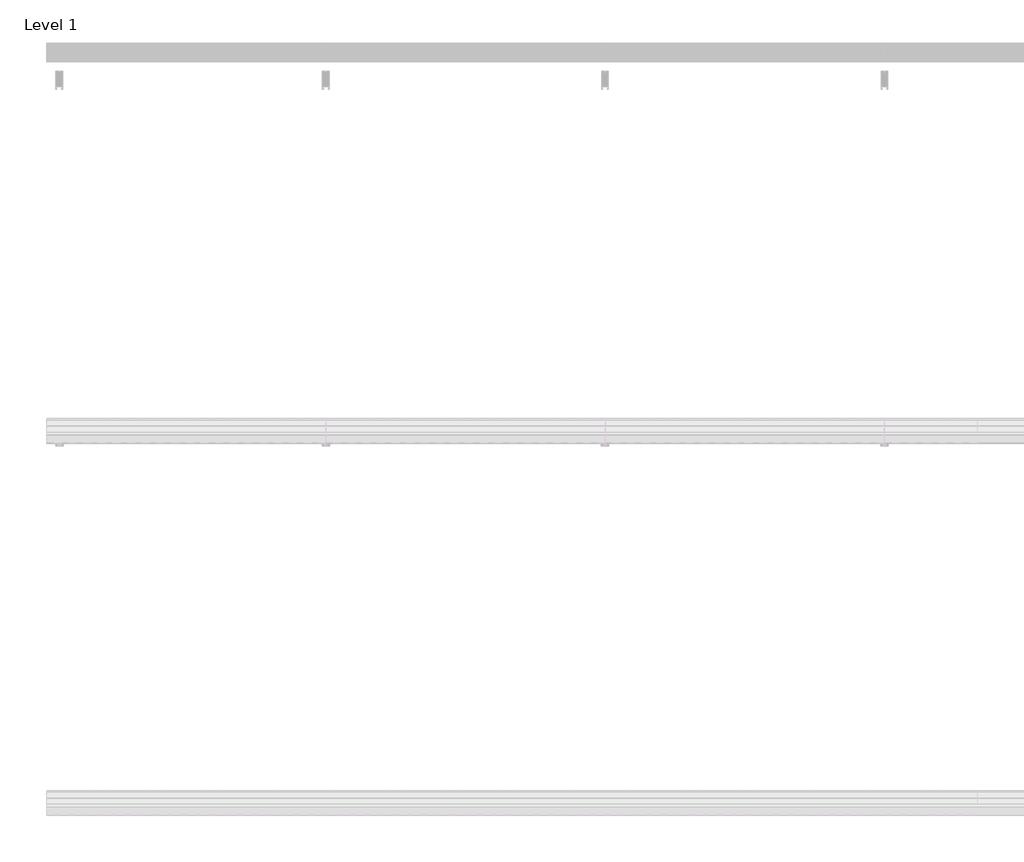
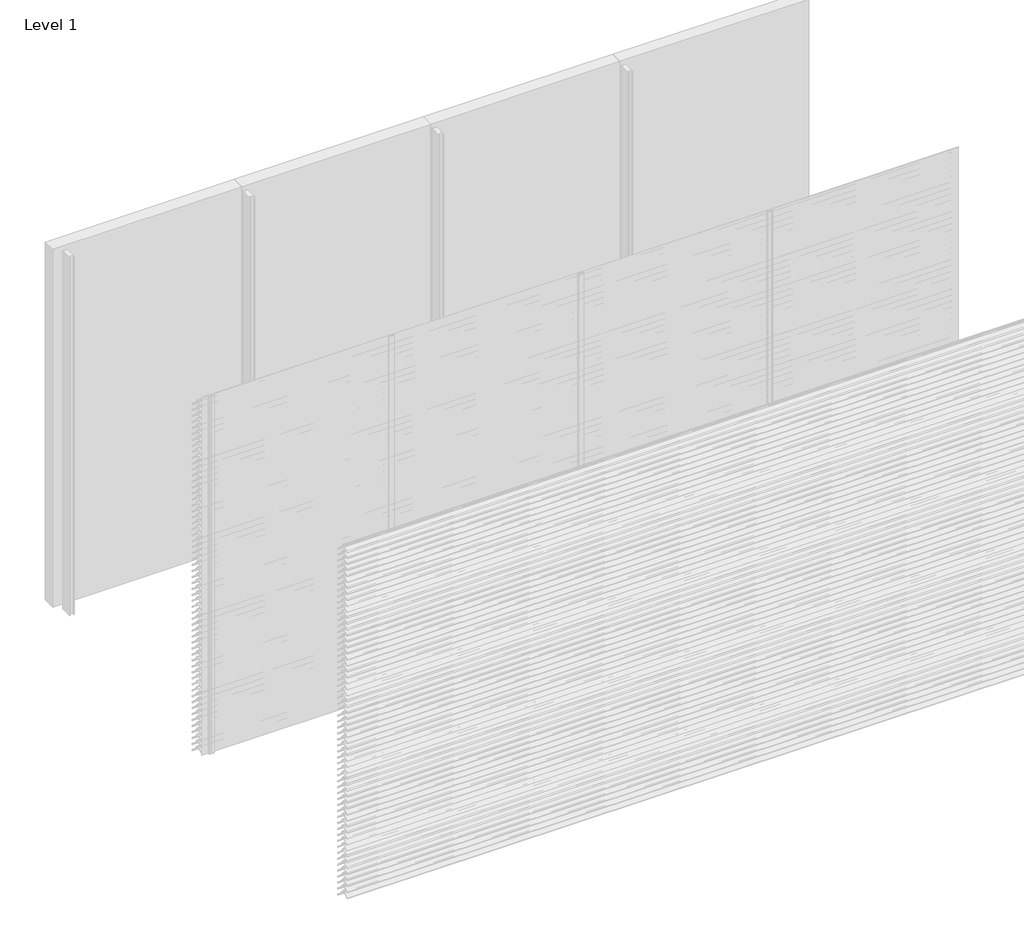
# One storey, part 98 of 173: 18 proxies.
"""IFC4 building model written with IfcOpenShell, lengths in millimetres."""

from ifc_helpers import new_model, si_unit, point, frame, frame_2d, origin, place, context, project, spatial, polyline, circle_curve, trimmed, segment, composite_curve, outline, extrude, element, save

model = new_model("IFC4")

# Units and contexts
model_context = context("Model", 3, world=origin())
ifc_project = project(units=[si_unit("LENGTHUNIT", "METRE", prefix="MILLI")], contexts=[model_context])

# Site, building, storey
site = spatial("IfcSite", under=ifc_project)
building = spatial("IfcBuilding", under=site)
storey = spatial("IfcBuildingStorey", under=building, Name="Level 1", Elevation=0.0)

# Proxies
placement = place(None, origin())
element("IfcBuildingElementProxy", 1, Name="Wall Sweeps", at=placement, inside=storey, context=model_context, shape_type="SweptSolid", body=[
    extrude(outline(composite_curve([segment(polyline([(-23998.0, 859.1474905), (-23998.0, 861.6227417)]), True, "CONTINUOUS"), segment(trimmed(circle_curve(frame_2d((-23951.2682172, 816.2200208)), 65.1557103), [point((-23998.0, 861.6227417))], [point((-23954.4014323, 881.3003524))], False, "CARTESIAN"), True, "CONTINUOUS"), segment(polyline([(-23954.4014323, 881.3003524), (-23934.8315836, 881.3003524)]), True, "CONTINUOUS"), segment(trimmed(circle_curve(frame_2d((-23732.7329489, 1028.5533172)), 250.0545817), [point((-23934.8315836, 881.3003524))], [point((-23941.4452143, 890.8344583))], False, "CARTESIAN"), True, "CONTINUOUS"), segment(trimmed(circle_curve(frame_2d((-23953.2981792, 885.1737835)), 13.1352966), [point((-23941.4452143, 890.8344583))], [point((-23953.8171475, 898.298824))], True, "CARTESIAN"), True, "CONTINUOUS"), segment(polyline([(-23953.8171475, 898.298824), (-23953.8171475, 900.0)]), True, "CONTINUOUS"), segment(trimmed(circle_curve(frame_2d((-23953.2981792, 885.1737835)), 14.8352966), [point((-23953.8171475, 900.0))], [point((-23939.9637661, 891.6760487))], False, "CARTESIAN"), True, "CONTINUOUS"), segment(trimmed(circle_curve(frame_2d((-23732.7329489, 1028.5533172)), 248.3545817), [point((-23939.9637661, 891.6760487))], [point((-23873.8787895, 824.2059416))], True, "CARTESIAN"), True, "CONTINUOUS"), segment(trimmed(circle_curve(frame_2d((-23883.8147537, 811.6649442)), 16.0), [point((-23873.8787895, 824.2059416))], [point((-23867.8648347, 810.4))], False, "CARTESIAN"), True, "CONTINUOUS"), segment(polyline([(-23867.8648347, 810.4), (-23869.6712069, 810.4)]), True, "CONTINUOUS"), segment(trimmed(circle_curve(frame_2d((-23883.8147537, 811.6649442)), 14.2), [point((-23869.6712069, 810.4))], [point((-23874.9518628, 822.7594998))], True, "CARTESIAN"), True, "CONTINUOUS"), segment(trimmed(circle_curve(frame_2d((-23732.7329489, 1028.5533172)), 250.1545817), [point((-23874.9518628, 822.7594998))], [point((-23933.7064024, 879.6003524))], False, "CARTESIAN"), True, "CONTINUOUS"), segment(polyline([(-23933.7064024, 879.6003524), (-23954.3602632, 879.6003524)]), True, "CONTINUOUS"), segment(trimmed(circle_curve(frame_2d((-23951.2682172, 816.2200208)), 63.4557103), [point((-23954.3602632, 879.6003524))], [point((-23998.0, 859.1474905))], True, "CARTESIAN"), True, "CONTINUOUS")], self_intersect=False)), frame((1500.0, 0.0, 0.0), z_axis=(1.0, 0.0, 0.0), x_axis=(0.0, 1.0, 0.0)), (0.0, 0.0, 1.0), 1500.0),
])
element("IfcBuildingElementProxy", 2, Name="Wall Sweeps", at=placement, inside=storey, context=model_context, shape_type="SweptSolid", body=[
    extrude(outline(composite_curve([segment(polyline([(-23998.0, 809.1474905), (-23998.0, 811.6227417)]), True, "CONTINUOUS"), segment(trimmed(circle_curve(frame_2d((-23951.2682172, 766.2200208)), 65.1557103), [point((-23998.0, 811.6227417))], [point((-23954.4014323, 831.3003524))], False, "CARTESIAN"), True, "CONTINUOUS"), segment(polyline([(-23954.4014323, 831.3003524), (-23934.8315836, 831.3003524)]), True, "CONTINUOUS"), segment(trimmed(circle_curve(frame_2d((-23732.7329489, 978.5533172)), 250.0545817), [point((-23934.8315836, 831.3003524))], [point((-23941.4452143, 840.8344583))], False, "CARTESIAN"), True, "CONTINUOUS"), segment(trimmed(circle_curve(frame_2d((-23953.2981792, 835.1737835)), 13.1352966), [point((-23941.4452143, 840.8344583))], [point((-23953.8171475, 848.298824))], True, "CARTESIAN"), True, "CONTINUOUS"), segment(polyline([(-23953.8171475, 848.298824), (-23953.8171475, 850.0)]), True, "CONTINUOUS"), segment(trimmed(circle_curve(frame_2d((-23953.2981792, 835.1737835)), 14.8352966), [point((-23953.8171475, 850.0))], [point((-23939.9637661, 841.6760487))], False, "CARTESIAN"), True, "CONTINUOUS"), segment(trimmed(circle_curve(frame_2d((-23732.7329489, 978.5533172)), 248.3545817), [point((-23939.9637661, 841.6760487))], [point((-23873.8787895, 774.2059416))], True, "CARTESIAN"), True, "CONTINUOUS"), segment(trimmed(circle_curve(frame_2d((-23883.8147537, 761.6649442)), 16.0), [point((-23873.8787895, 774.2059416))], [point((-23867.8648347, 760.4))], False, "CARTESIAN"), True, "CONTINUOUS"), segment(polyline([(-23867.8648347, 760.4), (-23869.6712069, 760.4)]), True, "CONTINUOUS"), segment(trimmed(circle_curve(frame_2d((-23883.8147537, 761.6649442)), 14.2), [point((-23869.6712069, 760.4))], [point((-23874.9518628, 772.7594998))], True, "CARTESIAN"), True, "CONTINUOUS"), segment(trimmed(circle_curve(frame_2d((-23732.7329489, 978.5533172)), 250.1545817), [point((-23874.9518628, 772.7594998))], [point((-23933.7064024, 829.6003524))], False, "CARTESIAN"), True, "CONTINUOUS"), segment(polyline([(-23933.7064024, 829.6003524), (-23954.3602632, 829.6003524)]), True, "CONTINUOUS"), segment(trimmed(circle_curve(frame_2d((-23951.2682172, 766.2200208)), 63.4557103), [point((-23954.3602632, 829.6003524))], [point((-23998.0, 809.1474905))], True, "CARTESIAN"), True, "CONTINUOUS")], self_intersect=False)), frame((1500.0, 0.0, 0.0), z_axis=(1.0, 0.0, 0.0), x_axis=(0.0, 1.0, 0.0)), (0.0, 0.0, 1.0), 1500.0),
])
element("IfcBuildingElementProxy", 3, Name="Wall Sweeps", at=placement, inside=storey, context=model_context, shape_type="SweptSolid", body=[
    extrude(outline(composite_curve([segment(polyline([(-23998.0, 759.1474905), (-23998.0, 761.6227417)]), True, "CONTINUOUS"), segment(trimmed(circle_curve(frame_2d((-23951.2682172, 716.2200208)), 65.1557103), [point((-23998.0, 761.6227417))], [point((-23954.4014323, 781.3003524))], False, "CARTESIAN"), True, "CONTINUOUS"), segment(polyline([(-23954.4014323, 781.3003524), (-23934.8315836, 781.3003524)]), True, "CONTINUOUS"), segment(trimmed(circle_curve(frame_2d((-23732.7329489, 928.5533172)), 250.0545817), [point((-23934.8315836, 781.3003524))], [point((-23941.4452143, 790.8344583))], False, "CARTESIAN"), True, "CONTINUOUS"), segment(trimmed(circle_curve(frame_2d((-23953.2981792, 785.1737835)), 13.1352966), [point((-23941.4452143, 790.8344583))], [point((-23953.8171475, 798.298824))], True, "CARTESIAN"), True, "CONTINUOUS"), segment(polyline([(-23953.8171475, 798.298824), (-23953.8171475, 800.0)]), True, "CONTINUOUS"), segment(trimmed(circle_curve(frame_2d((-23953.2981792, 785.1737835)), 14.8352966), [point((-23953.8171475, 800.0))], [point((-23939.9637661, 791.6760487))], False, "CARTESIAN"), True, "CONTINUOUS"), segment(trimmed(circle_curve(frame_2d((-23732.7329489, 928.5533172)), 248.3545817), [point((-23939.9637661, 791.6760487))], [point((-23873.8787895, 724.2059416))], True, "CARTESIAN"), True, "CONTINUOUS"), segment(trimmed(circle_curve(frame_2d((-23883.8147537, 711.6649442)), 16.0), [point((-23873.8787895, 724.2059416))], [point((-23867.8648347, 710.4))], False, "CARTESIAN"), True, "CONTINUOUS"), segment(polyline([(-23867.8648347, 710.4), (-23869.6712069, 710.4)]), True, "CONTINUOUS"), segment(trimmed(circle_curve(frame_2d((-23883.8147537, 711.6649442)), 14.2), [point((-23869.6712069, 710.4))], [point((-23874.9518628, 722.7594998))], True, "CARTESIAN"), True, "CONTINUOUS"), segment(trimmed(circle_curve(frame_2d((-23732.7329489, 928.5533172)), 250.1545817), [point((-23874.9518628, 722.7594998))], [point((-23933.7064024, 779.6003524))], False, "CARTESIAN"), True, "CONTINUOUS"), segment(polyline([(-23933.7064024, 779.6003524), (-23954.3602632, 779.6003524)]), True, "CONTINUOUS"), segment(trimmed(circle_curve(frame_2d((-23951.2682172, 716.2200208)), 63.4557103), [point((-23954.3602632, 779.6003524))], [point((-23998.0, 759.1474905))], True, "CARTESIAN"), True, "CONTINUOUS")], self_intersect=False)), frame((1500.0, 0.0, 0.0), z_axis=(1.0, 0.0, 0.0), x_axis=(0.0, 1.0, 0.0)), (0.0, 0.0, 1.0), 1500.0),
])
element("IfcBuildingElementProxy", 4, Name="Wall Sweeps", at=placement, inside=storey, context=model_context, shape_type="SweptSolid", body=[
    extrude(outline(composite_curve([segment(polyline([(-23998.0, 709.1474905), (-23998.0, 711.6227417)]), True, "CONTINUOUS"), segment(trimmed(circle_curve(frame_2d((-23951.2682172, 666.2200208)), 65.1557103), [point((-23998.0, 711.6227417))], [point((-23954.4014323, 731.3003524))], False, "CARTESIAN"), True, "CONTINUOUS"), segment(polyline([(-23954.4014323, 731.3003524), (-23934.8315836, 731.3003524)]), True, "CONTINUOUS"), segment(trimmed(circle_curve(frame_2d((-23732.7329489, 878.5533172)), 250.0545817), [point((-23934.8315836, 731.3003524))], [point((-23941.4452143, 740.8344583))], False, "CARTESIAN"), True, "CONTINUOUS"), segment(trimmed(circle_curve(frame_2d((-23953.2981792, 735.1737835)), 13.1352966), [point((-23941.4452143, 740.8344583))], [point((-23953.8171475, 748.298824))], True, "CARTESIAN"), True, "CONTINUOUS"), segment(polyline([(-23953.8171475, 748.298824), (-23953.8171475, 750.0)]), True, "CONTINUOUS"), segment(trimmed(circle_curve(frame_2d((-23953.2981792, 735.1737835)), 14.8352966), [point((-23953.8171475, 750.0))], [point((-23939.9637661, 741.6760487))], False, "CARTESIAN"), True, "CONTINUOUS"), segment(trimmed(circle_curve(frame_2d((-23732.7329489, 878.5533172)), 248.3545817), [point((-23939.9637661, 741.6760487))], [point((-23873.8787895, 674.2059416))], True, "CARTESIAN"), True, "CONTINUOUS"), segment(trimmed(circle_curve(frame_2d((-23883.8147537, 661.6649442)), 16.0), [point((-23873.8787895, 674.2059416))], [point((-23867.8648347, 660.4))], False, "CARTESIAN"), True, "CONTINUOUS"), segment(polyline([(-23867.8648347, 660.4), (-23869.6712069, 660.4)]), True, "CONTINUOUS"), segment(trimmed(circle_curve(frame_2d((-23883.8147537, 661.6649442)), 14.2), [point((-23869.6712069, 660.4))], [point((-23874.9518628, 672.7594998))], True, "CARTESIAN"), True, "CONTINUOUS"), segment(trimmed(circle_curve(frame_2d((-23732.7329489, 878.5533172)), 250.1545817), [point((-23874.9518628, 672.7594998))], [point((-23933.7064024, 729.6003524))], False, "CARTESIAN"), True, "CONTINUOUS"), segment(polyline([(-23933.7064024, 729.6003524), (-23954.3602632, 729.6003524)]), True, "CONTINUOUS"), segment(trimmed(circle_curve(frame_2d((-23951.2682172, 666.2200208)), 63.4557103), [point((-23954.3602632, 729.6003524))], [point((-23998.0, 709.1474905))], True, "CARTESIAN"), True, "CONTINUOUS")], self_intersect=False)), frame((1500.0, 0.0, 0.0), z_axis=(1.0, 0.0, 0.0), x_axis=(0.0, 1.0, 0.0)), (0.0, 0.0, 1.0), 1500.0),
])
element("IfcBuildingElementProxy", 5, Name="Wall Sweeps", at=placement, inside=storey, context=model_context, shape_type="SweptSolid", body=[
    extrude(outline(composite_curve([segment(polyline([(-23998.0, 659.1474905), (-23998.0, 661.6227417)]), True, "CONTINUOUS"), segment(trimmed(circle_curve(frame_2d((-23951.2682172, 616.2200208)), 65.1557103), [point((-23998.0, 661.6227417))], [point((-23954.4014323, 681.3003524))], False, "CARTESIAN"), True, "CONTINUOUS"), segment(polyline([(-23954.4014323, 681.3003524), (-23934.8315836, 681.3003524)]), True, "CONTINUOUS"), segment(trimmed(circle_curve(frame_2d((-23732.7329489, 828.5533172)), 250.0545817), [point((-23934.8315836, 681.3003524))], [point((-23941.4452143, 690.8344583))], False, "CARTESIAN"), True, "CONTINUOUS"), segment(trimmed(circle_curve(frame_2d((-23953.2981792, 685.1737835)), 13.1352966), [point((-23941.4452143, 690.8344583))], [point((-23953.8171475, 698.298824))], True, "CARTESIAN"), True, "CONTINUOUS"), segment(polyline([(-23953.8171475, 698.298824), (-23953.8171475, 700.0)]), True, "CONTINUOUS"), segment(trimmed(circle_curve(frame_2d((-23953.2981792, 685.1737835)), 14.8352966), [point((-23953.8171475, 700.0))], [point((-23939.9637661, 691.6760487))], False, "CARTESIAN"), True, "CONTINUOUS"), segment(trimmed(circle_curve(frame_2d((-23732.7329489, 828.5533172)), 248.3545817), [point((-23939.9637661, 691.6760487))], [point((-23873.8787895, 624.2059416))], True, "CARTESIAN"), True, "CONTINUOUS"), segment(trimmed(circle_curve(frame_2d((-23883.8147537, 611.6649442)), 16.0), [point((-23873.8787895, 624.2059416))], [point((-23867.8648347, 610.4))], False, "CARTESIAN"), True, "CONTINUOUS"), segment(polyline([(-23867.8648347, 610.4), (-23869.6712069, 610.4)]), True, "CONTINUOUS"), segment(trimmed(circle_curve(frame_2d((-23883.8147537, 611.6649442)), 14.2), [point((-23869.6712069, 610.4))], [point((-23874.9518628, 622.7594998))], True, "CARTESIAN"), True, "CONTINUOUS"), segment(trimmed(circle_curve(frame_2d((-23732.7329489, 828.5533172)), 250.1545817), [point((-23874.9518628, 622.7594998))], [point((-23933.7064024, 679.6003524))], False, "CARTESIAN"), True, "CONTINUOUS"), segment(polyline([(-23933.7064024, 679.6003524), (-23954.3602632, 679.6003524)]), True, "CONTINUOUS"), segment(trimmed(circle_curve(frame_2d((-23951.2682172, 616.2200208)), 63.4557103), [point((-23954.3602632, 679.6003524))], [point((-23998.0, 659.1474905))], True, "CARTESIAN"), True, "CONTINUOUS")], self_intersect=False)), frame((1500.0, 0.0, 0.0), z_axis=(1.0, 0.0, 0.0), x_axis=(0.0, 1.0, 0.0)), (0.0, 0.0, 1.0), 1500.0),
])
element("IfcBuildingElementProxy", 6, Name="Wall Sweeps", at=placement, inside=storey, context=model_context, shape_type="SweptSolid", body=[
    extrude(outline(composite_curve([segment(polyline([(-23998.0, 609.1474905), (-23998.0, 611.6227417)]), True, "CONTINUOUS"), segment(trimmed(circle_curve(frame_2d((-23951.2682172, 566.2200208)), 65.1557103), [point((-23998.0, 611.6227417))], [point((-23954.4014323, 631.3003524))], False, "CARTESIAN"), True, "CONTINUOUS"), segment(polyline([(-23954.4014323, 631.3003524), (-23934.8315836, 631.3003524)]), True, "CONTINUOUS"), segment(trimmed(circle_curve(frame_2d((-23732.7329489, 778.5533172)), 250.0545817), [point((-23934.8315836, 631.3003524))], [point((-23941.4452143, 640.8344583))], False, "CARTESIAN"), True, "CONTINUOUS"), segment(trimmed(circle_curve(frame_2d((-23953.2981792, 635.1737835)), 13.1352966), [point((-23941.4452143, 640.8344583))], [point((-23953.8171475, 648.298824))], True, "CARTESIAN"), True, "CONTINUOUS"), segment(polyline([(-23953.8171475, 648.298824), (-23953.8171475, 650.0)]), True, "CONTINUOUS"), segment(trimmed(circle_curve(frame_2d((-23953.2981792, 635.1737835)), 14.8352966), [point((-23953.8171475, 650.0))], [point((-23939.9637661, 641.6760487))], False, "CARTESIAN"), True, "CONTINUOUS"), segment(trimmed(circle_curve(frame_2d((-23732.7329489, 778.5533172)), 248.3545817), [point((-23939.9637661, 641.6760487))], [point((-23873.8787895, 574.2059416))], True, "CARTESIAN"), True, "CONTINUOUS"), segment(trimmed(circle_curve(frame_2d((-23883.8147537, 561.6649442)), 16.0), [point((-23873.8787895, 574.2059416))], [point((-23867.8648347, 560.4))], False, "CARTESIAN"), True, "CONTINUOUS"), segment(polyline([(-23867.8648347, 560.4), (-23869.6712069, 560.4)]), True, "CONTINUOUS"), segment(trimmed(circle_curve(frame_2d((-23883.8147537, 561.6649442)), 14.2), [point((-23869.6712069, 560.4))], [point((-23874.9518628, 572.7594998))], True, "CARTESIAN"), True, "CONTINUOUS"), segment(trimmed(circle_curve(frame_2d((-23732.7329489, 778.5533172)), 250.1545817), [point((-23874.9518628, 572.7594998))], [point((-23933.7064024, 629.6003524))], False, "CARTESIAN"), True, "CONTINUOUS"), segment(polyline([(-23933.7064024, 629.6003524), (-23954.3602632, 629.6003524)]), True, "CONTINUOUS"), segment(trimmed(circle_curve(frame_2d((-23951.2682172, 566.2200208)), 63.4557103), [point((-23954.3602632, 629.6003524))], [point((-23998.0, 609.1474905))], True, "CARTESIAN"), True, "CONTINUOUS")], self_intersect=False)), frame((1500.0, 0.0, 0.0), z_axis=(1.0, 0.0, 0.0), x_axis=(0.0, 1.0, 0.0)), (0.0, 0.0, 1.0), 1500.0),
])
element("IfcBuildingElementProxy", 7, Name="Wall Sweeps", at=placement, inside=storey, context=model_context, shape_type="SweptSolid", body=[
    extrude(outline(composite_curve([segment(polyline([(-23998.0, 559.1474905), (-23998.0, 561.6227417)]), True, "CONTINUOUS"), segment(trimmed(circle_curve(frame_2d((-23951.2682172, 516.2200208)), 65.1557103), [point((-23998.0, 561.6227417))], [point((-23954.4014323, 581.3003524))], False, "CARTESIAN"), True, "CONTINUOUS"), segment(polyline([(-23954.4014323, 581.3003524), (-23934.8315836, 581.3003524)]), True, "CONTINUOUS"), segment(trimmed(circle_curve(frame_2d((-23732.7329489, 728.5533172)), 250.0545817), [point((-23934.8315836, 581.3003524))], [point((-23941.4452143, 590.8344583))], False, "CARTESIAN"), True, "CONTINUOUS"), segment(trimmed(circle_curve(frame_2d((-23953.2981792, 585.1737835)), 13.1352966), [point((-23941.4452143, 590.8344583))], [point((-23953.8171475, 598.298824))], True, "CARTESIAN"), True, "CONTINUOUS"), segment(polyline([(-23953.8171475, 598.298824), (-23953.8171475, 600.0)]), True, "CONTINUOUS"), segment(trimmed(circle_curve(frame_2d((-23953.2981792, 585.1737835)), 14.8352966), [point((-23953.8171475, 600.0))], [point((-23939.9637661, 591.6760487))], False, "CARTESIAN"), True, "CONTINUOUS"), segment(trimmed(circle_curve(frame_2d((-23732.7329489, 728.5533172)), 248.3545817), [point((-23939.9637661, 591.6760487))], [point((-23873.8787895, 524.2059416))], True, "CARTESIAN"), True, "CONTINUOUS"), segment(trimmed(circle_curve(frame_2d((-23883.8147537, 511.6649442)), 16.0), [point((-23873.8787895, 524.2059416))], [point((-23867.8648347, 510.4))], False, "CARTESIAN"), True, "CONTINUOUS"), segment(polyline([(-23867.8648347, 510.4), (-23869.6712069, 510.4)]), True, "CONTINUOUS"), segment(trimmed(circle_curve(frame_2d((-23883.8147537, 511.6649442)), 14.2), [point((-23869.6712069, 510.4))], [point((-23874.9518628, 522.7594998))], True, "CARTESIAN"), True, "CONTINUOUS"), segment(trimmed(circle_curve(frame_2d((-23732.7329489, 728.5533172)), 250.1545817), [point((-23874.9518628, 522.7594998))], [point((-23933.7064024, 579.6003524))], False, "CARTESIAN"), True, "CONTINUOUS"), segment(polyline([(-23933.7064024, 579.6003524), (-23954.3602632, 579.6003524)]), True, "CONTINUOUS"), segment(trimmed(circle_curve(frame_2d((-23951.2682172, 516.2200208)), 63.4557103), [point((-23954.3602632, 579.6003524))], [point((-23998.0, 559.1474905))], True, "CARTESIAN"), True, "CONTINUOUS")], self_intersect=False)), frame((1500.0, 0.0, 0.0), z_axis=(1.0, 0.0, 0.0), x_axis=(0.0, 1.0, 0.0)), (0.0, 0.0, 1.0), 1500.0),
])
element("IfcBuildingElementProxy", 8, Name="Wall Sweeps", at=placement, inside=storey, context=model_context, shape_type="SweptSolid", body=[
    extrude(outline(composite_curve([segment(polyline([(-23998.0, 509.1474905), (-23998.0, 511.6227417)]), True, "CONTINUOUS"), segment(trimmed(circle_curve(frame_2d((-23951.2682172, 466.2200208)), 65.1557103), [point((-23998.0, 511.6227417))], [point((-23954.4014323, 531.3003524))], False, "CARTESIAN"), True, "CONTINUOUS"), segment(polyline([(-23954.4014323, 531.3003524), (-23934.8315836, 531.3003524)]), True, "CONTINUOUS"), segment(trimmed(circle_curve(frame_2d((-23732.7329489, 678.5533172)), 250.0545817), [point((-23934.8315836, 531.3003524))], [point((-23941.4452143, 540.8344583))], False, "CARTESIAN"), True, "CONTINUOUS"), segment(trimmed(circle_curve(frame_2d((-23953.2981792, 535.1737835)), 13.1352966), [point((-23941.4452143, 540.8344583))], [point((-23953.8171475, 548.298824))], True, "CARTESIAN"), True, "CONTINUOUS"), segment(polyline([(-23953.8171475, 548.298824), (-23953.8171475, 550.0)]), True, "CONTINUOUS"), segment(trimmed(circle_curve(frame_2d((-23953.2981792, 535.1737835)), 14.8352966), [point((-23953.8171475, 550.0))], [point((-23939.9637661, 541.6760487))], False, "CARTESIAN"), True, "CONTINUOUS"), segment(trimmed(circle_curve(frame_2d((-23732.7329489, 678.5533172)), 248.3545817), [point((-23939.9637661, 541.6760487))], [point((-23873.8787895, 474.2059416))], True, "CARTESIAN"), True, "CONTINUOUS"), segment(trimmed(circle_curve(frame_2d((-23883.8147537, 461.6649442)), 16.0), [point((-23873.8787895, 474.2059416))], [point((-23867.8648347, 460.4))], False, "CARTESIAN"), True, "CONTINUOUS"), segment(polyline([(-23867.8648347, 460.4), (-23869.6712069, 460.4)]), True, "CONTINUOUS"), segment(trimmed(circle_curve(frame_2d((-23883.8147537, 461.6649442)), 14.2), [point((-23869.6712069, 460.4))], [point((-23874.9518628, 472.7594998))], True, "CARTESIAN"), True, "CONTINUOUS"), segment(trimmed(circle_curve(frame_2d((-23732.7329489, 678.5533172)), 250.1545817), [point((-23874.9518628, 472.7594998))], [point((-23933.7064024, 529.6003524))], False, "CARTESIAN"), True, "CONTINUOUS"), segment(polyline([(-23933.7064024, 529.6003524), (-23954.3602632, 529.6003524)]), True, "CONTINUOUS"), segment(trimmed(circle_curve(frame_2d((-23951.2682172, 466.2200208)), 63.4557103), [point((-23954.3602632, 529.6003524))], [point((-23998.0, 509.1474905))], True, "CARTESIAN"), True, "CONTINUOUS")], self_intersect=False)), frame((1500.0, 0.0, 0.0), z_axis=(1.0, 0.0, 0.0), x_axis=(0.0, 1.0, 0.0)), (0.0, 0.0, 1.0), 1500.0),
])
element("IfcBuildingElementProxy", 9, Name="Wall Sweeps", at=placement, inside=storey, context=model_context, shape_type="SweptSolid", body=[
    extrude(outline(composite_curve([segment(polyline([(-23998.0, 459.1474905), (-23998.0, 461.6227417)]), True, "CONTINUOUS"), segment(trimmed(circle_curve(frame_2d((-23951.2682172, 416.2200208)), 65.1557103), [point((-23998.0, 461.6227417))], [point((-23954.4014323, 481.3003524))], False, "CARTESIAN"), True, "CONTINUOUS"), segment(polyline([(-23954.4014323, 481.3003524), (-23934.8315836, 481.3003524)]), True, "CONTINUOUS"), segment(trimmed(circle_curve(frame_2d((-23732.7329489, 628.5533172)), 250.0545817), [point((-23934.8315836, 481.3003524))], [point((-23941.4452143, 490.8344583))], False, "CARTESIAN"), True, "CONTINUOUS"), segment(trimmed(circle_curve(frame_2d((-23953.2981792, 485.1737835)), 13.1352966), [point((-23941.4452143, 490.8344583))], [point((-23953.8171475, 498.298824))], True, "CARTESIAN"), True, "CONTINUOUS"), segment(polyline([(-23953.8171475, 498.298824), (-23953.8171475, 500.0)]), True, "CONTINUOUS"), segment(trimmed(circle_curve(frame_2d((-23953.2981792, 485.1737835)), 14.8352966), [point((-23953.8171475, 500.0))], [point((-23939.9637661, 491.6760487))], False, "CARTESIAN"), True, "CONTINUOUS"), segment(trimmed(circle_curve(frame_2d((-23732.7329489, 628.5533172)), 248.3545817), [point((-23939.9637661, 491.6760487))], [point((-23873.8787895, 424.2059416))], True, "CARTESIAN"), True, "CONTINUOUS"), segment(trimmed(circle_curve(frame_2d((-23883.8147537, 411.6649442)), 16.0), [point((-23873.8787895, 424.2059416))], [point((-23867.8648347, 410.4))], False, "CARTESIAN"), True, "CONTINUOUS"), segment(polyline([(-23867.8648347, 410.4), (-23869.6712069, 410.4)]), True, "CONTINUOUS"), segment(trimmed(circle_curve(frame_2d((-23883.8147537, 411.6649442)), 14.2), [point((-23869.6712069, 410.4))], [point((-23874.9518628, 422.7594998))], True, "CARTESIAN"), True, "CONTINUOUS"), segment(trimmed(circle_curve(frame_2d((-23732.7329489, 628.5533172)), 250.1545817), [point((-23874.9518628, 422.7594998))], [point((-23933.7064024, 479.6003524))], False, "CARTESIAN"), True, "CONTINUOUS"), segment(polyline([(-23933.7064024, 479.6003524), (-23954.3602632, 479.6003524)]), True, "CONTINUOUS"), segment(trimmed(circle_curve(frame_2d((-23951.2682172, 416.2200208)), 63.4557103), [point((-23954.3602632, 479.6003524))], [point((-23998.0, 459.1474905))], True, "CARTESIAN"), True, "CONTINUOUS")], self_intersect=False)), frame((1500.0, 0.0, 0.0), z_axis=(1.0, 0.0, 0.0), x_axis=(0.0, 1.0, 0.0)), (0.0, 0.0, 1.0), 1500.0),
])
element("IfcBuildingElementProxy", 10, Name="Wall Sweeps", at=placement, inside=storey, context=model_context, shape_type="SweptSolid", body=[
    extrude(outline(composite_curve([segment(polyline([(-23998.0, 409.1474905), (-23998.0, 411.6227417)]), True, "CONTINUOUS"), segment(trimmed(circle_curve(frame_2d((-23951.2682172, 366.2200208)), 65.1557103), [point((-23998.0, 411.6227417))], [point((-23954.4014323, 431.3003524))], False, "CARTESIAN"), True, "CONTINUOUS"), segment(polyline([(-23954.4014323, 431.3003524), (-23934.8315836, 431.3003524)]), True, "CONTINUOUS"), segment(trimmed(circle_curve(frame_2d((-23732.7329489, 578.5533172)), 250.0545817), [point((-23934.8315836, 431.3003524))], [point((-23941.4452143, 440.8344583))], False, "CARTESIAN"), True, "CONTINUOUS"), segment(trimmed(circle_curve(frame_2d((-23953.2981792, 435.1737835)), 13.1352966), [point((-23941.4452143, 440.8344583))], [point((-23953.8171475, 448.298824))], True, "CARTESIAN"), True, "CONTINUOUS"), segment(polyline([(-23953.8171475, 448.298824), (-23953.8171475, 450.0)]), True, "CONTINUOUS"), segment(trimmed(circle_curve(frame_2d((-23953.2981792, 435.1737835)), 14.8352966), [point((-23953.8171475, 450.0))], [point((-23939.9637661, 441.6760487))], False, "CARTESIAN"), True, "CONTINUOUS"), segment(trimmed(circle_curve(frame_2d((-23732.7329489, 578.5533172)), 248.3545817), [point((-23939.9637661, 441.6760487))], [point((-23873.8787895, 374.2059416))], True, "CARTESIAN"), True, "CONTINUOUS"), segment(trimmed(circle_curve(frame_2d((-23883.8147537, 361.6649442)), 16.0), [point((-23873.8787895, 374.2059416))], [point((-23867.8648347, 360.4))], False, "CARTESIAN"), True, "CONTINUOUS"), segment(polyline([(-23867.8648347, 360.4), (-23869.6712069, 360.4)]), True, "CONTINUOUS"), segment(trimmed(circle_curve(frame_2d((-23883.8147537, 361.6649442)), 14.2), [point((-23869.6712069, 360.4))], [point((-23874.9518628, 372.7594998))], True, "CARTESIAN"), True, "CONTINUOUS"), segment(trimmed(circle_curve(frame_2d((-23732.7329489, 578.5533172)), 250.1545817), [point((-23874.9518628, 372.7594998))], [point((-23933.7064024, 429.6003524))], False, "CARTESIAN"), True, "CONTINUOUS"), segment(polyline([(-23933.7064024, 429.6003524), (-23954.3602632, 429.6003524)]), True, "CONTINUOUS"), segment(trimmed(circle_curve(frame_2d((-23951.2682172, 366.2200208)), 63.4557103), [point((-23954.3602632, 429.6003524))], [point((-23998.0, 409.1474905))], True, "CARTESIAN"), True, "CONTINUOUS")], self_intersect=False)), frame((1500.0, 0.0, 0.0), z_axis=(1.0, 0.0, 0.0), x_axis=(0.0, 1.0, 0.0)), (0.0, 0.0, 1.0), 1500.0),
])
element("IfcBuildingElementProxy", 11, Name="Wall Sweeps", at=placement, inside=storey, context=model_context, shape_type="SweptSolid", body=[
    extrude(outline(composite_curve([segment(polyline([(-23998.0, 359.1474905), (-23998.0, 361.6227417)]), True, "CONTINUOUS"), segment(trimmed(circle_curve(frame_2d((-23951.2682172, 316.2200208)), 65.1557103), [point((-23998.0, 361.6227417))], [point((-23954.4014323, 381.3003524))], False, "CARTESIAN"), True, "CONTINUOUS"), segment(polyline([(-23954.4014323, 381.3003524), (-23934.8315836, 381.3003524)]), True, "CONTINUOUS"), segment(trimmed(circle_curve(frame_2d((-23732.7329489, 528.5533172)), 250.0545817), [point((-23934.8315836, 381.3003524))], [point((-23941.4452143, 390.8344583))], False, "CARTESIAN"), True, "CONTINUOUS"), segment(trimmed(circle_curve(frame_2d((-23953.2981792, 385.1737835)), 13.1352966), [point((-23941.4452143, 390.8344583))], [point((-23953.8171475, 398.298824))], True, "CARTESIAN"), True, "CONTINUOUS"), segment(polyline([(-23953.8171475, 398.298824), (-23953.8171475, 400.0)]), True, "CONTINUOUS"), segment(trimmed(circle_curve(frame_2d((-23953.2981792, 385.1737835)), 14.8352966), [point((-23953.8171475, 400.0))], [point((-23939.9637661, 391.6760487))], False, "CARTESIAN"), True, "CONTINUOUS"), segment(trimmed(circle_curve(frame_2d((-23732.7329489, 528.5533172)), 248.3545817), [point((-23939.9637661, 391.6760487))], [point((-23873.8787895, 324.2059416))], True, "CARTESIAN"), True, "CONTINUOUS"), segment(trimmed(circle_curve(frame_2d((-23883.8147537, 311.6649442)), 16.0), [point((-23873.8787895, 324.2059416))], [point((-23867.8648347, 310.4))], False, "CARTESIAN"), True, "CONTINUOUS"), segment(polyline([(-23867.8648347, 310.4), (-23869.6712069, 310.4)]), True, "CONTINUOUS"), segment(trimmed(circle_curve(frame_2d((-23883.8147537, 311.6649442)), 14.2), [point((-23869.6712069, 310.4))], [point((-23874.9518628, 322.7594998))], True, "CARTESIAN"), True, "CONTINUOUS"), segment(trimmed(circle_curve(frame_2d((-23732.7329489, 528.5533172)), 250.1545817), [point((-23874.9518628, 322.7594998))], [point((-23933.7064024, 379.6003524))], False, "CARTESIAN"), True, "CONTINUOUS"), segment(polyline([(-23933.7064024, 379.6003524), (-23954.3602632, 379.6003524)]), True, "CONTINUOUS"), segment(trimmed(circle_curve(frame_2d((-23951.2682172, 316.2200208)), 63.4557103), [point((-23954.3602632, 379.6003524))], [point((-23998.0, 359.1474905))], True, "CARTESIAN"), True, "CONTINUOUS")], self_intersect=False)), frame((1500.0, 0.0, 0.0), z_axis=(1.0, 0.0, 0.0), x_axis=(0.0, 1.0, 0.0)), (0.0, 0.0, 1.0), 1500.0),
])
element("IfcBuildingElementProxy", 12, Name="Wall Sweeps", at=placement, inside=storey, context=model_context, shape_type="SweptSolid", body=[
    extrude(outline(composite_curve([segment(polyline([(-23998.0, 309.1474905), (-23998.0, 311.6227417)]), True, "CONTINUOUS"), segment(trimmed(circle_curve(frame_2d((-23951.2682172, 266.2200208)), 65.1557103), [point((-23998.0, 311.6227417))], [point((-23954.4014323, 331.3003524))], False, "CARTESIAN"), True, "CONTINUOUS"), segment(polyline([(-23954.4014323, 331.3003524), (-23934.8315836, 331.3003524)]), True, "CONTINUOUS"), segment(trimmed(circle_curve(frame_2d((-23732.7329489, 478.5533172)), 250.0545817), [point((-23934.8315836, 331.3003524))], [point((-23941.4452143, 340.8344583))], False, "CARTESIAN"), True, "CONTINUOUS"), segment(trimmed(circle_curve(frame_2d((-23953.2981792, 335.1737835)), 13.1352966), [point((-23941.4452143, 340.8344583))], [point((-23953.8171475, 348.298824))], True, "CARTESIAN"), True, "CONTINUOUS"), segment(polyline([(-23953.8171475, 348.298824), (-23953.8171475, 350.0)]), True, "CONTINUOUS"), segment(trimmed(circle_curve(frame_2d((-23953.2981792, 335.1737835)), 14.8352966), [point((-23953.8171475, 350.0))], [point((-23939.9637661, 341.6760487))], False, "CARTESIAN"), True, "CONTINUOUS"), segment(trimmed(circle_curve(frame_2d((-23732.7329489, 478.5533172)), 248.3545817), [point((-23939.9637661, 341.6760487))], [point((-23873.8787895, 274.2059416))], True, "CARTESIAN"), True, "CONTINUOUS"), segment(trimmed(circle_curve(frame_2d((-23883.8147537, 261.6649442)), 16.0), [point((-23873.8787895, 274.2059416))], [point((-23867.8648347, 260.4))], False, "CARTESIAN"), True, "CONTINUOUS"), segment(polyline([(-23867.8648347, 260.4), (-23869.6712069, 260.4)]), True, "CONTINUOUS"), segment(trimmed(circle_curve(frame_2d((-23883.8147537, 261.6649442)), 14.2), [point((-23869.6712069, 260.4))], [point((-23874.9518628, 272.7594998))], True, "CARTESIAN"), True, "CONTINUOUS"), segment(trimmed(circle_curve(frame_2d((-23732.7329489, 478.5533172)), 250.1545817), [point((-23874.9518628, 272.7594998))], [point((-23933.7064024, 329.6003524))], False, "CARTESIAN"), True, "CONTINUOUS"), segment(polyline([(-23933.7064024, 329.6003524), (-23954.3602632, 329.6003524)]), True, "CONTINUOUS"), segment(trimmed(circle_curve(frame_2d((-23951.2682172, 266.2200208)), 63.4557103), [point((-23954.3602632, 329.6003524))], [point((-23998.0, 309.1474905))], True, "CARTESIAN"), True, "CONTINUOUS")], self_intersect=False)), frame((1500.0, 0.0, 0.0), z_axis=(1.0, 0.0, 0.0), x_axis=(0.0, 1.0, 0.0)), (0.0, 0.0, 1.0), 1500.0),
])
element("IfcBuildingElementProxy", 13, Name="Wall Sweeps", at=placement, inside=storey, context=model_context, shape_type="SweptSolid", body=[
    extrude(outline(composite_curve([segment(polyline([(-23998.0, 259.1474905), (-23998.0, 261.6227417)]), True, "CONTINUOUS"), segment(trimmed(circle_curve(frame_2d((-23951.2682172, 216.2200208)), 65.1557103), [point((-23998.0, 261.6227417))], [point((-23954.4014323, 281.3003524))], False, "CARTESIAN"), True, "CONTINUOUS"), segment(polyline([(-23954.4014323, 281.3003524), (-23934.8315836, 281.3003524)]), True, "CONTINUOUS"), segment(trimmed(circle_curve(frame_2d((-23732.7329489, 428.5533172)), 250.0545817), [point((-23934.8315836, 281.3003524))], [point((-23941.4452143, 290.8344583))], False, "CARTESIAN"), True, "CONTINUOUS"), segment(trimmed(circle_curve(frame_2d((-23953.2981792, 285.1737835)), 13.1352966), [point((-23941.4452143, 290.8344583))], [point((-23953.8171475, 298.298824))], True, "CARTESIAN"), True, "CONTINUOUS"), segment(polyline([(-23953.8171475, 298.298824), (-23953.8171475, 300.0)]), True, "CONTINUOUS"), segment(trimmed(circle_curve(frame_2d((-23953.2981792, 285.1737835)), 14.8352966), [point((-23953.8171475, 300.0))], [point((-23939.9637661, 291.6760487))], False, "CARTESIAN"), True, "CONTINUOUS"), segment(trimmed(circle_curve(frame_2d((-23732.7329489, 428.5533172)), 248.3545817), [point((-23939.9637661, 291.6760487))], [point((-23873.8787895, 224.2059416))], True, "CARTESIAN"), True, "CONTINUOUS"), segment(trimmed(circle_curve(frame_2d((-23883.8147537, 211.6649442)), 16.0), [point((-23873.8787895, 224.2059416))], [point((-23867.8648347, 210.4))], False, "CARTESIAN"), True, "CONTINUOUS"), segment(polyline([(-23867.8648347, 210.4), (-23869.6712069, 210.4)]), True, "CONTINUOUS"), segment(trimmed(circle_curve(frame_2d((-23883.8147537, 211.6649442)), 14.2), [point((-23869.6712069, 210.4))], [point((-23874.9518628, 222.7594998))], True, "CARTESIAN"), True, "CONTINUOUS"), segment(trimmed(circle_curve(frame_2d((-23732.7329489, 428.5533172)), 250.1545817), [point((-23874.9518628, 222.7594998))], [point((-23933.7064024, 279.6003524))], False, "CARTESIAN"), True, "CONTINUOUS"), segment(polyline([(-23933.7064024, 279.6003524), (-23954.3602632, 279.6003524)]), True, "CONTINUOUS"), segment(trimmed(circle_curve(frame_2d((-23951.2682172, 216.2200208)), 63.4557103), [point((-23954.3602632, 279.6003524))], [point((-23998.0, 259.1474905))], True, "CARTESIAN"), True, "CONTINUOUS")], self_intersect=False)), frame((1500.0, 0.0, 0.0), z_axis=(1.0, 0.0, 0.0), x_axis=(0.0, 1.0, 0.0)), (0.0, 0.0, 1.0), 1500.0),
])
element("IfcBuildingElementProxy", 14, Name="Wall Sweeps", at=placement, inside=storey, context=model_context, shape_type="SweptSolid", body=[
    extrude(outline(composite_curve([segment(polyline([(-23998.0, 209.1474905), (-23998.0, 211.6227417)]), True, "CONTINUOUS"), segment(trimmed(circle_curve(frame_2d((-23951.2682172, 166.2200208)), 65.1557103), [point((-23998.0, 211.6227417))], [point((-23954.4014323, 231.3003524))], False, "CARTESIAN"), True, "CONTINUOUS"), segment(polyline([(-23954.4014323, 231.3003524), (-23934.8315836, 231.3003524)]), True, "CONTINUOUS"), segment(trimmed(circle_curve(frame_2d((-23732.7329489, 378.5533172)), 250.0545817), [point((-23934.8315836, 231.3003524))], [point((-23941.4452143, 240.8344583))], False, "CARTESIAN"), True, "CONTINUOUS"), segment(trimmed(circle_curve(frame_2d((-23953.2981792, 235.1737835)), 13.1352966), [point((-23941.4452143, 240.8344583))], [point((-23953.8171475, 248.298824))], True, "CARTESIAN"), True, "CONTINUOUS"), segment(polyline([(-23953.8171475, 248.298824), (-23953.8171475, 250.0)]), True, "CONTINUOUS"), segment(trimmed(circle_curve(frame_2d((-23953.2981792, 235.1737835)), 14.8352966), [point((-23953.8171475, 250.0))], [point((-23939.9637661, 241.6760487))], False, "CARTESIAN"), True, "CONTINUOUS"), segment(trimmed(circle_curve(frame_2d((-23732.7329489, 378.5533172)), 248.3545817), [point((-23939.9637661, 241.6760487))], [point((-23873.8787895, 174.2059416))], True, "CARTESIAN"), True, "CONTINUOUS"), segment(trimmed(circle_curve(frame_2d((-23883.8147537, 161.6649442)), 16.0), [point((-23873.8787895, 174.2059416))], [point((-23867.8648347, 160.4))], False, "CARTESIAN"), True, "CONTINUOUS"), segment(polyline([(-23867.8648347, 160.4), (-23869.6712069, 160.4)]), True, "CONTINUOUS"), segment(trimmed(circle_curve(frame_2d((-23883.8147537, 161.6649442)), 14.2), [point((-23869.6712069, 160.4))], [point((-23874.9518628, 172.7594998))], True, "CARTESIAN"), True, "CONTINUOUS"), segment(trimmed(circle_curve(frame_2d((-23732.7329489, 378.5533172)), 250.1545817), [point((-23874.9518628, 172.7594998))], [point((-23933.7064024, 229.6003524))], False, "CARTESIAN"), True, "CONTINUOUS"), segment(polyline([(-23933.7064024, 229.6003524), (-23954.3602632, 229.6003524)]), True, "CONTINUOUS"), segment(trimmed(circle_curve(frame_2d((-23951.2682172, 166.2200208)), 63.4557103), [point((-23954.3602632, 229.6003524))], [point((-23998.0, 209.1474905))], True, "CARTESIAN"), True, "CONTINUOUS")], self_intersect=False)), frame((1500.0, 0.0, 0.0), z_axis=(1.0, 0.0, 0.0), x_axis=(0.0, 1.0, 0.0)), (0.0, 0.0, 1.0), 1500.0),
])
element("IfcBuildingElementProxy", 15, Name="Wall Sweeps", at=placement, inside=storey, context=model_context, shape_type="SweptSolid", body=[
    extrude(outline(composite_curve([segment(polyline([(-23998.0, 159.1474905), (-23998.0, 161.6227417)]), True, "CONTINUOUS"), segment(trimmed(circle_curve(frame_2d((-23951.2682172, 116.2200208)), 65.1557103), [point((-23998.0, 161.6227417))], [point((-23954.4014323, 181.3003524))], False, "CARTESIAN"), True, "CONTINUOUS"), segment(polyline([(-23954.4014323, 181.3003524), (-23934.8315836, 181.3003524)]), True, "CONTINUOUS"), segment(trimmed(circle_curve(frame_2d((-23732.7329489, 328.5533172)), 250.0545817), [point((-23934.8315836, 181.3003524))], [point((-23941.4452143, 190.8344583))], False, "CARTESIAN"), True, "CONTINUOUS"), segment(trimmed(circle_curve(frame_2d((-23953.2981792, 185.1737835)), 13.1352966), [point((-23941.4452143, 190.8344583))], [point((-23953.8171475, 198.298824))], True, "CARTESIAN"), True, "CONTINUOUS"), segment(polyline([(-23953.8171475, 198.298824), (-23953.8171475, 200.0)]), True, "CONTINUOUS"), segment(trimmed(circle_curve(frame_2d((-23953.2981792, 185.1737835)), 14.8352966), [point((-23953.8171475, 200.0))], [point((-23939.9637661, 191.6760487))], False, "CARTESIAN"), True, "CONTINUOUS"), segment(trimmed(circle_curve(frame_2d((-23732.7329489, 328.5533172)), 248.3545817), [point((-23939.9637661, 191.6760487))], [point((-23873.8787895, 124.2059416))], True, "CARTESIAN"), True, "CONTINUOUS"), segment(trimmed(circle_curve(frame_2d((-23883.8147537, 111.6649442)), 16.0), [point((-23873.8787895, 124.2059416))], [point((-23867.8648347, 110.4))], False, "CARTESIAN"), True, "CONTINUOUS"), segment(polyline([(-23867.8648347, 110.4), (-23869.6712069, 110.4)]), True, "CONTINUOUS"), segment(trimmed(circle_curve(frame_2d((-23883.8147537, 111.6649442)), 14.2), [point((-23869.6712069, 110.4))], [point((-23874.9518628, 122.7594998))], True, "CARTESIAN"), True, "CONTINUOUS"), segment(trimmed(circle_curve(frame_2d((-23732.7329489, 328.5533172)), 250.1545817), [point((-23874.9518628, 122.7594998))], [point((-23933.7064024, 179.6003524))], False, "CARTESIAN"), True, "CONTINUOUS"), segment(polyline([(-23933.7064024, 179.6003524), (-23954.3602632, 179.6003524)]), True, "CONTINUOUS"), segment(trimmed(circle_curve(frame_2d((-23951.2682172, 116.2200208)), 63.4557103), [point((-23954.3602632, 179.6003524))], [point((-23998.0, 159.1474905))], True, "CARTESIAN"), True, "CONTINUOUS")], self_intersect=False)), frame((1500.0, 0.0, 0.0), z_axis=(1.0, 0.0, 0.0), x_axis=(0.0, 1.0, 0.0)), (0.0, 0.0, 1.0), 1500.0),
])
element("IfcBuildingElementProxy", 16, Name="Wall Sweeps", at=placement, inside=storey, context=model_context, shape_type="SweptSolid", body=[
    extrude(outline(composite_curve([segment(polyline([(-23998.0, 109.1474905), (-23998.0, 111.6227417)]), True, "CONTINUOUS"), segment(trimmed(circle_curve(frame_2d((-23951.2682172, 66.2200208)), 65.1557103), [point((-23998.0, 111.6227417))], [point((-23954.4014323, 131.3003524))], False, "CARTESIAN"), True, "CONTINUOUS"), segment(polyline([(-23954.4014323, 131.3003524), (-23934.8315836, 131.3003524)]), True, "CONTINUOUS"), segment(trimmed(circle_curve(frame_2d((-23732.7329489, 278.5533172)), 250.0545817), [point((-23934.8315836, 131.3003524))], [point((-23941.4452143, 140.8344583))], False, "CARTESIAN"), True, "CONTINUOUS"), segment(trimmed(circle_curve(frame_2d((-23953.2981792, 135.1737835)), 13.1352966), [point((-23941.4452143, 140.8344583))], [point((-23953.8171475, 148.298824))], True, "CARTESIAN"), True, "CONTINUOUS"), segment(polyline([(-23953.8171475, 148.298824), (-23953.8171475, 150.0)]), True, "CONTINUOUS"), segment(trimmed(circle_curve(frame_2d((-23953.2981792, 135.1737835)), 14.8352966), [point((-23953.8171475, 150.0))], [point((-23939.9637661, 141.6760487))], False, "CARTESIAN"), True, "CONTINUOUS"), segment(trimmed(circle_curve(frame_2d((-23732.7329489, 278.5533172)), 248.3545817), [point((-23939.9637661, 141.6760487))], [point((-23873.8787895, 74.2059416))], True, "CARTESIAN"), True, "CONTINUOUS"), segment(trimmed(circle_curve(frame_2d((-23883.8147537, 61.6649442)), 16.0), [point((-23873.8787895, 74.2059416))], [point((-23867.8648347, 60.4))], False, "CARTESIAN"), True, "CONTINUOUS"), segment(polyline([(-23867.8648347, 60.4), (-23869.6712069, 60.4)]), True, "CONTINUOUS"), segment(trimmed(circle_curve(frame_2d((-23883.8147537, 61.6649442)), 14.2), [point((-23869.6712069, 60.4))], [point((-23874.9518628, 72.7594998))], True, "CARTESIAN"), True, "CONTINUOUS"), segment(trimmed(circle_curve(frame_2d((-23732.7329489, 278.5533172)), 250.1545817), [point((-23874.9518628, 72.7594998))], [point((-23933.7064024, 129.6003524))], False, "CARTESIAN"), True, "CONTINUOUS"), segment(polyline([(-23933.7064024, 129.6003524), (-23954.3602632, 129.6003524)]), True, "CONTINUOUS"), segment(trimmed(circle_curve(frame_2d((-23951.2682172, 66.2200208)), 63.4557103), [point((-23954.3602632, 129.6003524))], [point((-23998.0, 109.1474905))], True, "CARTESIAN"), True, "CONTINUOUS")], self_intersect=False)), frame((1500.0, 0.0, 0.0), z_axis=(1.0, 0.0, 0.0), x_axis=(0.0, 1.0, 0.0)), (0.0, 0.0, 1.0), 1500.0),
])
element("IfcBuildingElementProxy", 17, Name="Wall Sweeps", at=placement, inside=storey, context=model_context, shape_type="SweptSolid", body=[
    extrude(outline(composite_curve([segment(polyline([(-23998.0, 59.1474905), (-23998.0, 61.6227417)]), True, "CONTINUOUS"), segment(trimmed(circle_curve(frame_2d((-23951.2682172, 16.2200208)), 65.1557103), [point((-23998.0, 61.6227417))], [point((-23954.4014323, 81.3003524))], False, "CARTESIAN"), True, "CONTINUOUS"), segment(polyline([(-23954.4014323, 81.3003524), (-23934.8315836, 81.3003524)]), True, "CONTINUOUS"), segment(trimmed(circle_curve(frame_2d((-23732.7329489, 228.5533172)), 250.0545817), [point((-23934.8315836, 81.3003524))], [point((-23941.4452143, 90.8344583))], False, "CARTESIAN"), True, "CONTINUOUS"), segment(trimmed(circle_curve(frame_2d((-23953.2981792, 85.1737835)), 13.1352966), [point((-23941.4452143, 90.8344583))], [point((-23953.8171475, 98.298824))], True, "CARTESIAN"), True, "CONTINUOUS"), segment(polyline([(-23953.8171475, 98.298824), (-23953.8171475, 100.0)]), True, "CONTINUOUS"), segment(trimmed(circle_curve(frame_2d((-23953.2981792, 85.1737835)), 14.8352966), [point((-23953.8171475, 100.0))], [point((-23939.9637661, 91.6760487))], False, "CARTESIAN"), True, "CONTINUOUS"), segment(trimmed(circle_curve(frame_2d((-23732.7329489, 228.5533172)), 248.3545817), [point((-23939.9637661, 91.6760487))], [point((-23873.8787895, 24.2059416))], True, "CARTESIAN"), True, "CONTINUOUS"), segment(trimmed(circle_curve(frame_2d((-23883.8147537, 11.6649442)), 16.0), [point((-23873.8787895, 24.2059416))], [point((-23867.8648347, 10.4))], False, "CARTESIAN"), True, "CONTINUOUS"), segment(polyline([(-23867.8648347, 10.4), (-23869.6712069, 10.4)]), True, "CONTINUOUS"), segment(trimmed(circle_curve(frame_2d((-23883.8147537, 11.6649442)), 14.2), [point((-23869.6712069, 10.4))], [point((-23874.9518628, 22.7594998))], True, "CARTESIAN"), True, "CONTINUOUS"), segment(trimmed(circle_curve(frame_2d((-23732.7329489, 228.5533172)), 250.1545817), [point((-23874.9518628, 22.7594998))], [point((-23933.7064024, 79.6003524))], False, "CARTESIAN"), True, "CONTINUOUS"), segment(polyline([(-23933.7064024, 79.6003524), (-23954.3602632, 79.6003524)]), True, "CONTINUOUS"), segment(trimmed(circle_curve(frame_2d((-23951.2682172, 16.2200208)), 63.4557103), [point((-23954.3602632, 79.6003524))], [point((-23998.0, 59.1474905))], True, "CARTESIAN"), True, "CONTINUOUS")], self_intersect=False)), frame((1500.0, 0.0, 0.0), z_axis=(1.0, 0.0, 0.0), x_axis=(0.0, 1.0, 0.0)), (0.0, 0.0, 1.0), 1500.0),
])
element("IfcBuildingElementProxy", 18, Name="Wall Sweeps", at=placement, inside=storey, context=model_context, shape_type="SweptSolid", body=[
    extrude(outline(composite_curve([segment(polyline([(-23998.0, 9.1474905), (-23998.0, 11.6227417)]), True, "CONTINUOUS"), segment(trimmed(circle_curve(frame_2d((-23951.2682172, -33.7799792)), 65.1557103), [point((-23998.0, 11.6227417))], [point((-23954.4014323, 31.3003524))], False, "CARTESIAN"), True, "CONTINUOUS"), segment(polyline([(-23954.4014323, 31.3003524), (-23934.8315836, 31.3003524)]), True, "CONTINUOUS"), segment(trimmed(circle_curve(frame_2d((-23732.7329489, 178.5533172)), 250.0545817), [point((-23934.8315836, 31.3003524))], [point((-23941.4452143, 40.8344583))], False, "CARTESIAN"), True, "CONTINUOUS"), segment(trimmed(circle_curve(frame_2d((-23953.2981792, 35.1737835)), 13.1352966), [point((-23941.4452143, 40.8344583))], [point((-23953.8171475, 48.298824))], True, "CARTESIAN"), True, "CONTINUOUS"), segment(polyline([(-23953.8171475, 48.298824), (-23953.8171475, 50.0)]), True, "CONTINUOUS"), segment(trimmed(circle_curve(frame_2d((-23953.2981792, 35.1737835)), 14.8352966), [point((-23953.8171475, 50.0))], [point((-23939.9637661, 41.6760487))], False, "CARTESIAN"), True, "CONTINUOUS"), segment(trimmed(circle_curve(frame_2d((-23732.7329489, 178.5533172)), 248.3545817), [point((-23939.9637661, 41.6760487))], [point((-23873.8787895, -25.7940584))], True, "CARTESIAN"), True, "CONTINUOUS"), segment(trimmed(circle_curve(frame_2d((-23883.8147537, -38.3350558)), 16.0), [point((-23873.8787895, -25.7940584))], [point((-23867.8648347, -39.6))], False, "CARTESIAN"), True, "CONTINUOUS"), segment(polyline([(-23867.8648347, -39.6), (-23869.6712069, -39.6)]), True, "CONTINUOUS"), segment(trimmed(circle_curve(frame_2d((-23883.8147537, -38.3350558)), 14.2), [point((-23869.6712069, -39.6))], [point((-23874.9518628, -27.2405002))], True, "CARTESIAN"), True, "CONTINUOUS"), segment(trimmed(circle_curve(frame_2d((-23732.7329489, 178.5533172)), 250.1545817), [point((-23874.9518628, -27.2405002))], [point((-23933.7064024, 29.6003524))], False, "CARTESIAN"), True, "CONTINUOUS"), segment(polyline([(-23933.7064024, 29.6003524), (-23954.3602632, 29.6003524)]), True, "CONTINUOUS"), segment(trimmed(circle_curve(frame_2d((-23951.2682172, -33.7799792)), 63.4557103), [point((-23954.3602632, 29.6003524))], [point((-23998.0, 9.1474905))], True, "CARTESIAN"), True, "CONTINUOUS")], self_intersect=False)), frame((1500.0, 0.0, 0.0), z_axis=(1.0, 0.0, 0.0), x_axis=(0.0, 1.0, 0.0)), (0.0, 0.0, 1.0), 1500.0),
])

save(model, "model.ifc")
